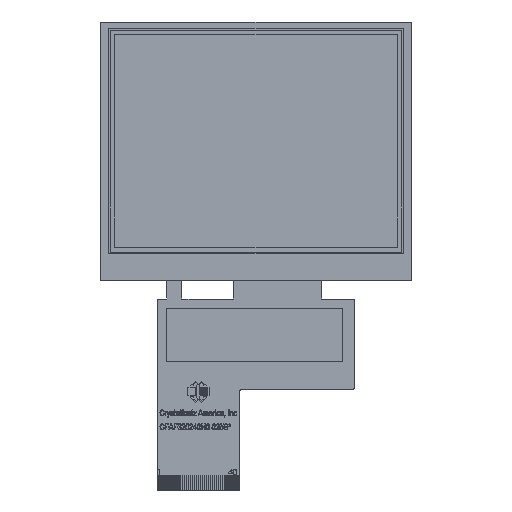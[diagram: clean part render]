
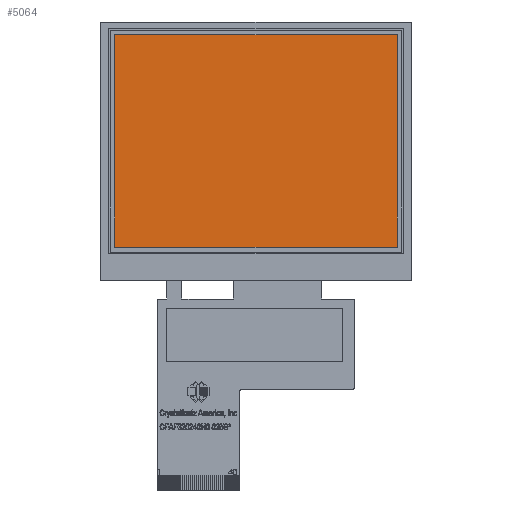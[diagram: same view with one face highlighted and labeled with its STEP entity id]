
A CAD part, top view. The second image highlights one B-rep face of the part: STEP entity #5064.
In plain terms, the highlighted planar face has unit normal (0, 0, 1).
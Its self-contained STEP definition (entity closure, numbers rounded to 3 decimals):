
#755 = DIRECTION ( 'NONE',  ( 1., 0., 0. ) ) ;
#1867 = VECTOR ( 'NONE', #13275, 1000. ) ;
#2247 = EDGE_CURVE ( 'NONE', #54853, #39321, #9898, .T. ) ;
#5064 = ADVANCED_FACE ( 'NONE', ( #52240 ), #47923, .T. ) ;
#6558 = VECTOR ( 'NONE', #27733, 1000. ) ;
#9898 = LINE ( 'NONE', #44205, #52587 ) ;
#10283 = EDGE_CURVE ( 'NONE', #28964, #50592, #30547, .T. ) ;
#10302 = CARTESIAN_POINT ( 'NONE',  ( 35.04, 28.78, 3.15 ) ) ;
#13275 = DIRECTION ( 'NONE',  ( -1., 0., 0. ) ) ;
#15949 = AXIS2_PLACEMENT_3D ( 'NONE', #22587, #18273, #35783 ) ;
#18273 = DIRECTION ( 'NONE',  ( 0., 0., 1. ) ) ;
#18595 = EDGE_CURVE ( 'NONE', #39321, #28964, #32853, .T. ) ;
#19920 = DIRECTION ( 'NONE',  ( 0., -1., 0. ) ) ;
#20182 = CARTESIAN_POINT ( 'NONE',  ( 35.04, -23.78, 3.15 ) ) ;
#22409 = CARTESIAN_POINT ( 'NONE',  ( -35.04, -23.78, 3.15 ) ) ;
#22587 = CARTESIAN_POINT ( 'NONE',  ( 0., 0., 3.15 ) ) ;
#27733 = DIRECTION ( 'NONE',  ( 0., 1., 0. ) ) ;
#28890 = CARTESIAN_POINT ( 'NONE',  ( -35.04, 0., 3.15 ) ) ;
#28964 = VERTEX_POINT ( 'NONE', #20182 ) ;
#29010 = ORIENTED_EDGE ( 'NONE', *, *, #2247, .F. ) ;
#29674 = VECTOR ( 'NONE', #19920, 1000. ) ;
#30547 = LINE ( 'NONE', #44076, #1867 ) ;
#32853 = LINE ( 'NONE', #42379, #29674 ) ;
#34977 = ORIENTED_EDGE ( 'NONE', *, *, #10283, .F. ) ;
#35645 = ORIENTED_EDGE ( 'NONE', *, *, #38901, .F. ) ;
#35783 = DIRECTION ( 'NONE',  ( 1., 0., 0. ) ) ;
#38901 = EDGE_CURVE ( 'NONE', #50592, #54853, #41840, .T. ) ;
#39007 = ORIENTED_EDGE ( 'NONE', *, *, #18595, .F. ) ;
#39321 = VERTEX_POINT ( 'NONE', #10302 ) ;
#41840 = LINE ( 'NONE', #28890, #6558 ) ;
#42379 = CARTESIAN_POINT ( 'NONE',  ( 35.04, 0., 3.15 ) ) ;
#43113 = EDGE_LOOP ( 'NONE', ( #35645, #34977, #39007, #29010 ) ) ;
#44076 = CARTESIAN_POINT ( 'NONE',  ( 0., -23.78, 3.15 ) ) ;
#44205 = CARTESIAN_POINT ( 'NONE',  ( 0., 28.78, 3.15 ) ) ;
#47923 = PLANE ( 'NONE',  #15949 ) ;
#50592 = VERTEX_POINT ( 'NONE', #22409 ) ;
#52240 = FACE_OUTER_BOUND ( 'NONE', #43113, .T. ) ;
#52552 = CARTESIAN_POINT ( 'NONE',  ( -35.04, 28.78, 3.15 ) ) ;
#52587 = VECTOR ( 'NONE', #755, 1000. ) ;
#54853 = VERTEX_POINT ( 'NONE', #52552 ) ;
